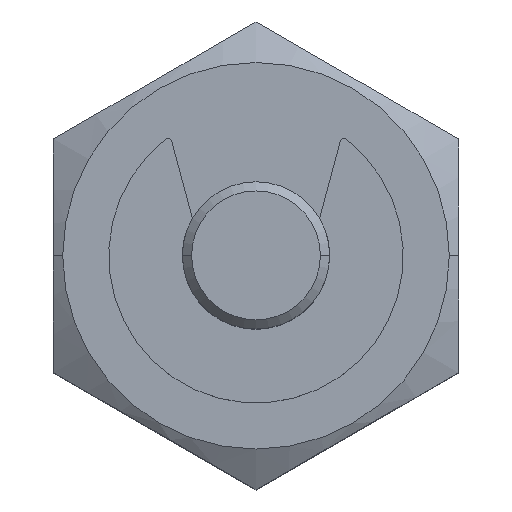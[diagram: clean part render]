
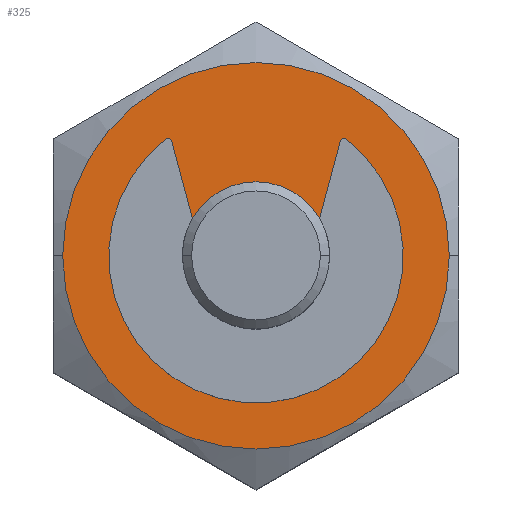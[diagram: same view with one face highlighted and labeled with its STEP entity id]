
A CAD part, top view. The second image highlights one B-rep face of the part: STEP entity #325.
In plain terms, the highlighted planar face has unit normal (0, 0, 1).
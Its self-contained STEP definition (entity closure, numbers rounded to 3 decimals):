
#31 = CARTESIAN_POINT ( 'NONE',  ( 4.769, 6.173, 12. ) ) ;
#39 = CARTESIAN_POINT ( 'NONE',  ( 10.626, -10.663, 12. ) ) ;
#44 = ORIENTED_EDGE ( 'NONE', *, *, #247, .F. ) ;
#47 = DIRECTION ( 'NONE',  ( 0., 0., 1. ) ) ;
#50 = AXIS2_PLACEMENT_3D ( 'NONE', #436, #764, #277 ) ;
#52 = ORIENTED_EDGE ( 'NONE', *, *, #293, .F. ) ;
#53 = DIRECTION ( 'NONE',  ( -0.259, -0.966, 0. ) ) ;
#84 = VECTOR ( 'NONE', #107, 1000. ) ;
#87 = ORIENTED_EDGE ( 'NONE', *, *, #906, .F. ) ;
#95 = DIRECTION ( 'NONE',  ( -1., 0., 0. ) ) ;
#98 = CIRCLE ( 'NONE', #664, 0.2 ) ;
#107 = DIRECTION ( 'NONE',  ( -0.259, 0.966, 0. ) ) ;
#128 = CARTESIAN_POINT ( 'NONE',  ( -3.45, 2.024, 12. ) ) ;
#130 = FACE_BOUND ( 'NONE', #199, .T. ) ;
#136 = VERTEX_POINT ( 'NONE', #967 ) ;
#152 = CARTESIAN_POINT ( 'NONE',  ( 4.769, 6.173, 12. ) ) ;
#175 = DIRECTION ( 'NONE',  ( 0., -1., 0. ) ) ;
#183 = DIRECTION ( 'NONE',  ( 0., 0., -1. ) ) ;
#185 = EDGE_LOOP ( 'NONE', ( #52, #732 ) ) ;
#192 = CARTESIAN_POINT ( 'NONE',  ( -4.769, 6.373, 12. ) ) ;
#199 = EDGE_LOOP ( 'NONE', ( #962, #87, #717, #661, #783, #365, #44, #443 ) ) ;
#212 = EDGE_CURVE ( 'NONE', #1067, #136, #496, .T. ) ;
#213 = DIRECTION ( 'NONE',  ( 0., -1., 0. ) ) ;
#219 = AXIS2_PLACEMENT_3D ( 'NONE', #652, #1096, #175 ) ;
#220 = FACE_OUTER_BOUND ( 'NONE', #185, .T. ) ;
#225 = LINE ( 'NONE', #128, #84 ) ;
#234 = CARTESIAN_POINT ( 'NONE',  ( -10.5, 0., 12. ) ) ;
#247 = EDGE_CURVE ( 'NONE', #378, #408, #225, .T. ) ;
#277 = DIRECTION ( 'NONE',  ( 1., 0., 0. ) ) ;
#280 = DIRECTION ( 'NONE',  ( 0., 0., 1. ) ) ;
#284 = CIRCLE ( 'NONE', #822, 0.2 ) ;
#293 = EDGE_CURVE ( 'NONE', #312, #768, #633, .T. ) ;
#302 = AXIS2_PLACEMENT_3D ( 'NONE', #590, #183, #95 ) ;
#312 = VERTEX_POINT ( 'NONE', #234 ) ;
#322 = VECTOR ( 'NONE', #53, 1000. ) ;
#325 = ADVANCED_FACE ( 'NONE', ( #220, #130 ), #539, .F. ) ;
#339 = VERTEX_POINT ( 'NONE', #1038 ) ;
#357 = CARTESIAN_POINT ( 'NONE',  ( -4.769, 6.173, 12. ) ) ;
#365 = ORIENTED_EDGE ( 'NONE', *, *, #911, .F. ) ;
#366 = CIRCLE ( 'NONE', #807, 0.2 ) ;
#368 = VERTEX_POINT ( 'NONE', #1052 ) ;
#378 = VERTEX_POINT ( 'NONE', #888 ) ;
#408 = VERTEX_POINT ( 'NONE', #1009 ) ;
#421 = VERTEX_POINT ( 'NONE', #837 ) ;
#436 = CARTESIAN_POINT ( 'NONE',  ( 0., 0., 12. ) ) ;
#443 = ORIENTED_EDGE ( 'NONE', *, *, #1064, .F. ) ;
#448 = DIRECTION ( 'NONE',  ( 0., 0., 1. ) ) ;
#496 = CIRCLE ( 'NONE', #219, 0.2 ) ;
#539 = PLANE ( 'NONE',  #587 ) ;
#587 = AXIS2_PLACEMENT_3D ( 'NONE', #39, #802, #893 ) ;
#590 = CARTESIAN_POINT ( 'NONE',  ( 0., 0., 12. ) ) ;
#631 = CIRCLE ( 'NONE', #50, 4. ) ;
#633 = CIRCLE ( 'NONE', #302, 10.5 ) ;
#640 = DIRECTION ( 'NONE',  ( -1., 0., 0. ) ) ;
#652 = CARTESIAN_POINT ( 'NONE',  ( -4.769, 6.173, 12. ) ) ;
#654 = VERTEX_POINT ( 'NONE', #690 ) ;
#661 = ORIENTED_EDGE ( 'NONE', *, *, #815, .F. ) ;
#664 = AXIS2_PLACEMENT_3D ( 'NONE', #357, #448, #1044 ) ;
#690 = CARTESIAN_POINT ( 'NONE',  ( 3.45, 2.024, 12. ) ) ;
#699 = EDGE_CURVE ( 'NONE', #368, #421, #366, .T. ) ;
#717 = ORIENTED_EDGE ( 'NONE', *, *, #699, .F. ) ;
#723 = CARTESIAN_POINT ( 'NONE',  ( 10.5, 0., 12. ) ) ;
#732 = ORIENTED_EDGE ( 'NONE', *, *, #735, .F. ) ;
#733 = CIRCLE ( 'NONE', #840, 10.5 ) ;
#734 = DIRECTION ( 'NONE',  ( 0., -1., 0. ) ) ;
#735 = EDGE_CURVE ( 'NONE', #768, #312, #733, .T. ) ;
#742 = CARTESIAN_POINT ( 'NONE',  ( 0., 0., 12. ) ) ;
#764 = DIRECTION ( 'NONE',  ( 0., 0., 1. ) ) ;
#768 = VERTEX_POINT ( 'NONE', #723 ) ;
#774 = EDGE_CURVE ( 'NONE', #339, #654, #808, .T. ) ;
#783 = ORIENTED_EDGE ( 'NONE', *, *, #212, .F. ) ;
#786 = CIRCLE ( 'NONE', #1032, 8. ) ;
#802 = DIRECTION ( 'NONE',  ( 0., 0., -1. ) ) ;
#807 = AXIS2_PLACEMENT_3D ( 'NONE', #152, #47, #734 ) ;
#808 = LINE ( 'NONE', #902, #322 ) ;
#815 = EDGE_CURVE ( 'NONE', #136, #368, #786, .T. ) ;
#822 = AXIS2_PLACEMENT_3D ( 'NONE', #31, #280, #213 ) ;
#837 = CARTESIAN_POINT ( 'NONE',  ( 4.769, 6.373, 12. ) ) ;
#840 = AXIS2_PLACEMENT_3D ( 'NONE', #1066, #991, #640 ) ;
#888 = CARTESIAN_POINT ( 'NONE',  ( -3.45, 2.024, 12. ) ) ;
#893 = DIRECTION ( 'NONE',  ( -1., 0., 0. ) ) ;
#902 = CARTESIAN_POINT ( 'NONE',  ( 3.45, 2.024, 12. ) ) ;
#906 = EDGE_CURVE ( 'NONE', #421, #339, #284, .T. ) ;
#911 = EDGE_CURVE ( 'NONE', #408, #1067, #98, .T. ) ;
#962 = ORIENTED_EDGE ( 'NONE', *, *, #774, .F. ) ;
#967 = CARTESIAN_POINT ( 'NONE',  ( -4.891, 6.331, 12. ) ) ;
#991 = DIRECTION ( 'NONE',  ( 0., 0., -1. ) ) ;
#1004 = DIRECTION ( 'NONE',  ( 0., 0., 1. ) ) ;
#1009 = CARTESIAN_POINT ( 'NONE',  ( -4.575, 6.224, 12. ) ) ;
#1032 = AXIS2_PLACEMENT_3D ( 'NONE', #742, #1004, #1083 ) ;
#1038 = CARTESIAN_POINT ( 'NONE',  ( 4.575, 6.224, 12. ) ) ;
#1044 = DIRECTION ( 'NONE',  ( 0., -1., 0. ) ) ;
#1052 = CARTESIAN_POINT ( 'NONE',  ( 4.891, 6.331, 12. ) ) ;
#1064 = EDGE_CURVE ( 'NONE', #654, #378, #631, .T. ) ;
#1066 = CARTESIAN_POINT ( 'NONE',  ( 0., 0., 12. ) ) ;
#1067 = VERTEX_POINT ( 'NONE', #192 ) ;
#1083 = DIRECTION ( 'NONE',  ( 0., -1., 0. ) ) ;
#1096 = DIRECTION ( 'NONE',  ( 0., 0., 1. ) ) ;
